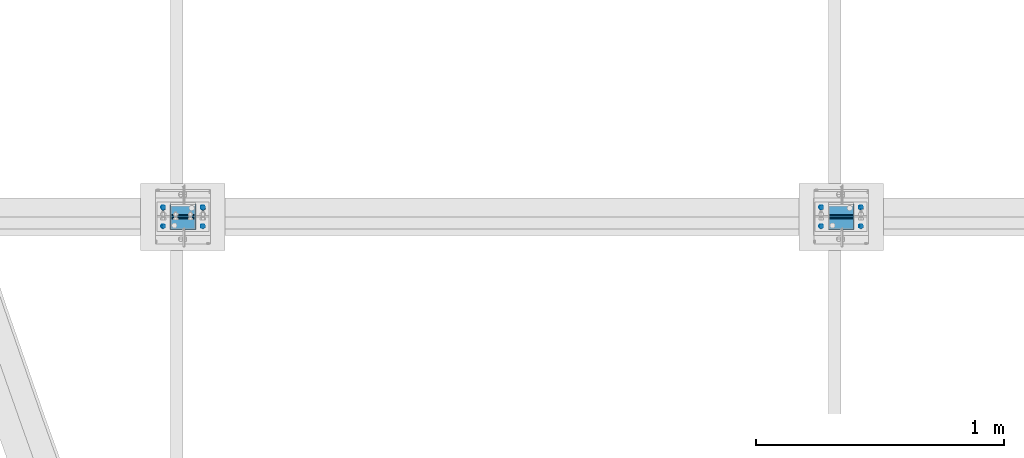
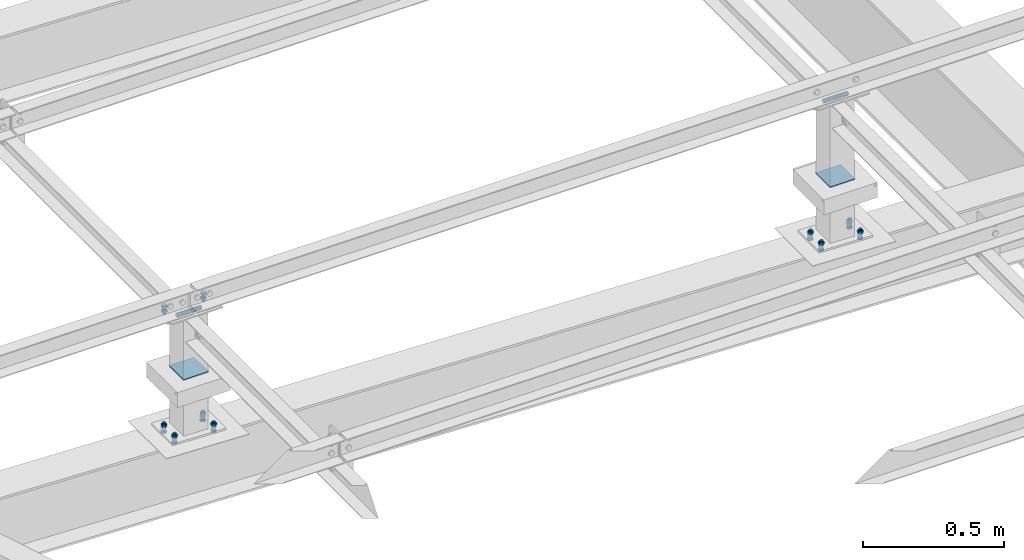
# One storey, part 56 of 3134: 9 mechanical fasteners, 5 elements without a shape of their own.
"""IFC2X3 building model written with IfcOpenShell, lengths in millimetres."""

from ifc_helpers import new_model, si_unit, frame, origin_with_axes, place, context, subcontext, project, spatial, faceted_brep, source, transform, mapped, material, type_object, element, aggregate, save


model = new_model("IFC2X3")

# Units and contexts
model_context = context("Model", 3, precision=1e-05, world=origin_with_axes())
body_context = subcontext(model_context, "Body", "Model", "MODEL_VIEW")
ifc_project = project(units=[si_unit("LENGTHUNIT", "METRE", prefix="MILLI"), si_unit("AREAUNIT", "SQUARE_METRE"), si_unit("VOLUMEUNIT", "CUBIC_METRE"), si_unit("MASSUNIT", "GRAM", prefix="KILO"), si_unit("TIMEUNIT", "SECOND"), si_unit("PLANEANGLEUNIT", "RADIAN"), si_unit("SOLIDANGLEUNIT", "STERADIAN"), si_unit("THERMODYNAMICTEMPERATUREUNIT", "DEGREE_CELSIUS"), si_unit("LUMINOUSINTENSITYUNIT", "LUMEN")], contexts=[model_context])

# Site, building, storey
site_placement = place(None, origin_with_axes())
site = spatial("IfcSite", under=ifc_project, at=site_placement, CompositionType="ELEMENT")
building_placement = place(site_placement, origin_with_axes())
building = spatial("IfcBuilding", under=site, at=building_placement, Name="Undefined", CompositionType="ELEMENT")
storey_placement = place(building_placement, origin_with_axes())
storey = spatial("IfcBuildingStorey", under=building, at=storey_placement, Name="Undefined", CompositionType="ELEMENT", Elevation=0.0)

# Assembly, mechanical fastener
assembly_1_placement = place(storey_placement, origin_with_axes())
assembly_1 = element("IfcElementAssembly", 1, at=assembly_1_placement, inside=storey, AssemblyPlace="NOTDEFINED", PredefinedType="RIGID_FRAME")
ifc_material_1 = material(Name="8.8")
mechanical_fastener_type = type_object("IfcMechanicalFastenerType", Name="Bolt assembly")
shared_shape_1 = source(origin_with_axes(), body_context, "Body", "Brep", [
    faceted_brep([(10.9696551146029, -14.0, 0.0), (5.48482755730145, -14.0, 9.5), (-5.48482755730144, -14.0, 9.5), (-10.9696551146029, -14.0, 1.34339530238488e-15), (-5.48482755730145, -14.0, -9.5), (5.48482755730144, -14.0, -9.50000000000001), (5.48482755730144, -6.0, -9.50000000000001), (-5.48482755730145, -6.0, -9.5), (-10.9696551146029, -6.0, 1.34339530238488e-15), (-5.48482755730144, -6.0, 9.5), (5.48482755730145, -6.0, 9.5), (10.9696551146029, -6.0, 0.0), (6.0, -6.0, 0.0), (5.19615242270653, -6.0, 3.00000000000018), (2.99999999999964, -6.0, 5.19615242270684), (-6.21801588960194e-13, -6.0, 6.0), (-3.00000000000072, -6.0, 5.19615242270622), (-5.19615242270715, -6.0, 2.9999999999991), (-6.0, -6.0, -1.24360317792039e-12), (-5.19615242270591, -6.0, -3.00000000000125), (-2.99999999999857, -6.0, -5.19615242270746), (1.85874342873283e-12, -6.0, -6.0), (3.00000000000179, -6.0, -5.1961524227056), (5.19615242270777, -6.0, -2.99999999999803), (5.19615242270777, 24.0, -2.99999999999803), (3.00000000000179, 24.0, -5.1961524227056), (1.85874342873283e-12, 24.0, -6.0), (-2.99999999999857, 24.0, -5.19615242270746), (-5.19615242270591, 24.0, -3.00000000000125), (-6.0, 24.0, -1.24360317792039e-12), (-5.19615242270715, 24.0, 2.9999999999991), (-3.00000000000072, 24.0, 5.19615242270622), (-6.21801588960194e-13, 24.0, 6.0), (2.99999999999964, 24.0, 5.19615242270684), (5.19615242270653, 24.0, 3.00000000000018), (6.0, 24.0, 0.0), (10.9696551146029, 6.00000000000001, 0.0), (5.48482755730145, 6.00000000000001, 9.5), (-5.48482755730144, 6.00000000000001, 9.5), (-10.9696551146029, 6.00000000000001, 1.34339530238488e-15), (-5.48482755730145, 6.00000000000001, -9.5), (5.48482755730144, 6.00000000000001, -9.50000000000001), (5.48482755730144, 16.0, -9.50000000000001), (-5.48482755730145, 16.0, -9.5), (-10.9696551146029, 16.0, 1.34339530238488e-15), (-5.48482755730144, 16.0, 9.5), (5.48482755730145, 16.0, 9.5), (10.9696551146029, 16.0, 0.0)], [[[0, 1, 2, 3, 4, 5]], [[6, 7, 8, 9, 10, 11]], [[0, 11, 10, 1]], [[1, 10, 9, 2]], [[2, 9, 8, 3]], [[3, 8, 7, 4]], [[4, 7, 6, 5]], [[5, 6, 11, 0]], [[12, 13, 14, 15, 16, 17, 18, 19, 20, 21, 22, 23]], [[24, 25, 26, 27, 28, 29, 30, 31, 32, 33, 34, 35]], [[12, 35, 34, 13]], [[13, 34, 33, 14]], [[14, 33, 32, 15]], [[15, 32, 31, 16]], [[16, 31, 30, 17]], [[17, 30, 29, 18]], [[18, 29, 28, 19]], [[19, 28, 27, 20]], [[20, 27, 26, 21]], [[21, 26, 25, 22]], [[22, 25, 24, 23]], [[23, 24, 35, 12]], [[36, 37, 38, 39, 40, 41]], [[42, 43, 44, 45, 46, 47]], [[36, 47, 46, 37]], [[37, 46, 45, 38]], [[38, 45, 44, 39]], [[39, 44, 43, 40]], [[40, 43, 42, 41]], [[41, 42, 47, 36]]]),
    faceted_brep([(7.0, -0.1, 0.0), (6.06217782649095, -0.1, 3.50000000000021), (3.49999999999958, -0.1, 6.06217782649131), (-7.25435187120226e-13, -0.1, 7.0), (-3.50000000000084, -0.1, 6.06217782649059), (-6.06217782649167, -0.1, 3.49999999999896), (-7.0, -0.1, -1.45087037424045e-12), (-6.06217782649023, -0.1, -3.50000000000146), (-3.49999999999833, -0.1, -6.06217782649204), (2.1685340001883e-12, -0.1, -7.0), (3.50000000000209, -0.1, -6.06217782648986), (6.0621778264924, -0.1, -3.4999999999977), (6.0621778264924, 6.00000000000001, -3.4999999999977), (3.50000000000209, 6.00000000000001, -6.06217782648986), (2.1685340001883e-12, 6.00000000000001, -7.0), (-3.49999999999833, 6.00000000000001, -6.06217782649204), (-6.06217782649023, 6.00000000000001, -3.50000000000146), (-7.0, 6.00000000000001, -1.45087037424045e-12), (-6.06217782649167, 6.00000000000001, 3.49999999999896), (-3.50000000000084, 6.00000000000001, 6.06217782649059), (-7.25435187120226e-13, 6.00000000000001, 7.0), (3.49999999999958, 6.00000000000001, 6.06217782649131), (6.06217782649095, 6.00000000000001, 3.50000000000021), (7.0, 6.00000000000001, 0.0), (7.0, -5.9, 0.0), (6.06217782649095, -5.9, 3.50000000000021), (3.49999999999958, -5.9, 6.06217782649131), (-7.25435187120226e-13, -5.9, 7.0), (-3.50000000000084, -5.9, 6.06217782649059), (-6.06217782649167, -5.9, 3.49999999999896), (-7.0, -5.9, -1.45087037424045e-12), (-6.06217782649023, -5.9, -3.50000000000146), (-3.49999999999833, -5.9, -6.06217782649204), (2.1685340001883e-12, -5.9, -7.0), (3.50000000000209, -5.9, -6.06217782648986), (6.0621778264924, -5.9, -3.4999999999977), (6.0621778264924, 0.0999999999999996, -3.4999999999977), (3.50000000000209, 0.0999999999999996, -6.06217782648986), (2.1685340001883e-12, 0.0999999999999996, -7.0), (-3.49999999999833, 0.0999999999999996, -6.06217782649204), (-6.06217782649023, 0.0999999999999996, -3.50000000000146), (-7.0, 0.0999999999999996, -1.45087037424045e-12), (-6.06217782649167, 0.0999999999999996, 3.49999999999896), (-3.50000000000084, 0.0999999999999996, 6.06217782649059), (-7.25435187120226e-13, 0.0999999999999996, 7.0), (3.49999999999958, 0.0999999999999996, 6.06217782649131), (6.06217782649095, 0.0999999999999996, 3.50000000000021), (7.0, 0.0999999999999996, 0.0)], [[[0, 1, 2, 3, 4, 5, 6, 7, 8, 9, 10, 11]], [[12, 13, 14, 15, 16, 17, 18, 19, 20, 21, 22, 23]], [[0, 23, 22, 1]], [[1, 22, 21, 2]], [[2, 21, 20, 3]], [[3, 20, 19, 4]], [[4, 19, 18, 5]], [[5, 18, 17, 6]], [[6, 17, 16, 7]], [[7, 16, 15, 8]], [[8, 15, 14, 9]], [[9, 14, 13, 10]], [[10, 13, 12, 11]], [[11, 12, 23, 0]], [[24, 25, 26, 27, 28, 29, 30, 31, 32, 33, 34, 35]], [[36, 37, 38, 39, 40, 41, 42, 43, 44, 45, 46, 47]], [[24, 47, 46, 25]], [[25, 46, 45, 26]], [[26, 45, 44, 27]], [[27, 44, 43, 28]], [[28, 43, 42, 29]], [[29, 42, 41, 30]], [[30, 41, 40, 31]], [[31, 40, 39, 32]], [[32, 39, 38, 33]], [[33, 38, 37, 34]], [[34, 37, 36, 35]], [[35, 36, 47, 24]]]),
])
mechanical_fastener_1_placement = place(assembly_1_placement, frame((5691.67, 19485.0, 4365.0), z_axis=(1.0, 0.0, 0.0), x_axis=(0.0, -1.0, 0.0)))
mechanical_fastener_1 = element("IfcMechanicalFastener", 2, at=mechanical_fastener_1_placement, type_object=mechanical_fastener_type, material=ifc_material_1, Name="Bolt assembly", NominalDiameter=12.0, NominalLength=30.0, context=body_context, shape_type="MappedRepresentation", body=[
    mapped(shared_shape_1, transform((0.0, -5.32963895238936e-10, -79.9999999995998))),
    mapped(shared_shape_1, transform((0.0, 5.3114490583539e-10, 79.9999999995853))),
])
aggregate(assembly_1, [mechanical_fastener_1])

assembly_2_placement = place(storey_placement, origin_with_axes())
assembly_2 = element("IfcElementAssembly", 3, at=assembly_2_placement, inside=storey, AssemblyPlace="NOTDEFINED", PredefinedType="RIGID_FRAME")
shared_shape_2 = source(origin_with_axes(), body_context, "Body", "Brep", [
    faceted_brep([(10.9696551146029, -4.18280906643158, 0.0), (5.48482755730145, -4.18280906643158, 9.5), (-5.48482755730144, -4.18280906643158, 9.5), (-10.9696551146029, -4.18280906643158, 1.34339530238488e-15), (-5.48482755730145, -4.18280906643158, -9.5), (5.48482755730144, -4.18280906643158, -9.50000000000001), (5.48482755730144, 3.81719093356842, -9.50000000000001), (-5.48482755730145, 3.81719093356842, -9.5), (-10.9696551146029, 3.81719093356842, 1.34339530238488e-15), (-5.48482755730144, 3.81719093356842, 9.5), (5.48482755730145, 3.81719093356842, 9.5), (10.9696551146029, 3.81719093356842, 0.0), (6.0, 3.81719093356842, 0.0), (5.19615242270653, 3.81719093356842, 3.00000000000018), (2.99999999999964, 3.81719093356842, 5.19615242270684), (-6.21801588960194e-13, 3.81719093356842, 6.0), (-3.00000000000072, 3.81719093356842, 5.19615242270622), (-5.19615242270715, 3.81719093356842, 2.9999999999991), (-6.0, 3.81719093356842, -1.24360317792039e-12), (-5.19615242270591, 3.81719093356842, -3.00000000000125), (-2.99999999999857, 3.81719093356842, -5.19615242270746), (1.85874342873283e-12, 3.81719093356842, -6.0), (3.00000000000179, 3.81719093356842, -5.1961524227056), (5.19615242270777, 3.81719093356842, -2.99999999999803), (5.19615242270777, 38.8171909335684, -2.99999999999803), (3.00000000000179, 38.8171909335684, -5.1961524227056), (1.85874342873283e-12, 38.8171909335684, -6.0), (-2.99999999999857, 38.8171909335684, -5.19615242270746), (-5.19615242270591, 38.8171909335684, -3.00000000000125), (-6.0, 38.8171909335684, -1.24360317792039e-12), (-5.19615242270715, 38.8171909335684, 2.9999999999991), (-3.00000000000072, 38.8171909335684, 5.19615242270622), (-6.21801588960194e-13, 38.8171909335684, 6.0), (2.99999999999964, 38.8171909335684, 5.19615242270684), (5.19615242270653, 38.8171909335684, 3.00000000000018), (6.0, 38.8171909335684, 0.0), (10.9696551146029, 23.0139082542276, 0.0), (5.48482755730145, 23.0139082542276, 9.5), (-5.48482755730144, 23.0139082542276, 9.5), (-10.9696551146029, 23.0139082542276, 1.34339530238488e-15), (-5.48482755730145, 23.0139082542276, -9.5), (5.48482755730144, 23.0139082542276, -9.50000000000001), (5.48482755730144, 33.0139082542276, -9.50000000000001), (-5.48482755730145, 33.0139082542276, -9.5), (-10.9696551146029, 33.0139082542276, 1.34339530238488e-15), (-5.48482755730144, 33.0139082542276, 9.5), (5.48482755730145, 33.0139082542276, 9.5), (10.9696551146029, 33.0139082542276, 0.0)], [[[0, 1, 2, 3, 4, 5]], [[6, 7, 8, 9, 10, 11]], [[0, 11, 10, 1]], [[1, 10, 9, 2]], [[2, 9, 8, 3]], [[3, 8, 7, 4]], [[4, 7, 6, 5]], [[5, 6, 11, 0]], [[12, 13, 14, 15, 16, 17, 18, 19, 20, 21, 22, 23]], [[24, 25, 26, 27, 28, 29, 30, 31, 32, 33, 34, 35]], [[12, 35, 34, 13]], [[13, 34, 33, 14]], [[14, 33, 32, 15]], [[15, 32, 31, 16]], [[16, 31, 30, 17]], [[17, 30, 29, 18]], [[18, 29, 28, 19]], [[19, 28, 27, 20]], [[20, 27, 26, 21]], [[21, 26, 25, 22]], [[22, 25, 24, 23]], [[23, 24, 35, 12]], [[36, 37, 38, 39, 40, 41]], [[42, 43, 44, 45, 46, 47]], [[36, 47, 46, 37]], [[37, 46, 45, 38]], [[38, 45, 44, 39]], [[39, 44, 43, 40]], [[40, 43, 42, 41]], [[41, 42, 47, 36]]]),
    faceted_brep([(7.0, 3.91719093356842, 0.0), (6.06217782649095, 3.91719093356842, 3.50000000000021), (3.49999999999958, 3.91719093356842, 6.06217782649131), (-7.25435187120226e-13, 3.91719093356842, 7.0), (-3.50000000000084, 3.91719093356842, 6.06217782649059), (-6.06217782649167, 3.91719093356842, 3.49999999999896), (-7.0, 3.91719093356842, -1.45087037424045e-12), (-6.06217782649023, 3.91719093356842, -3.50000000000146), (-3.49999999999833, 3.91719093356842, -6.06217782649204), (2.1685340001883e-12, 3.91719093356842, -7.0), (3.50000000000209, 3.91719093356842, -6.06217782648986), (6.0621778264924, 3.91719093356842, -3.4999999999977), (6.0621778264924, 13.1171907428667, -3.4999999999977), (3.50000000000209, 13.1171907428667, -6.06217782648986), (2.1685340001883e-12, 13.1171907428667, -7.0), (-3.49999999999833, 13.1171907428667, -6.06217782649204), (-6.06217782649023, 13.1171907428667, -3.50000000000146), (-7.0, 13.1171907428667, -1.45087037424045e-12), (-6.06217782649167, 13.1171907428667, 3.49999999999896), (-3.50000000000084, 13.1171907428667, 6.06217782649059), (-7.25435187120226e-13, 13.1171907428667, 7.0), (3.49999999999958, 13.1171907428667, 6.06217782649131), (6.06217782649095, 13.1171907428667, 3.50000000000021), (7.0, 13.1171907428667, 0.0), (7.0, 14.9139082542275, 0.0), (6.06217782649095, 14.9139082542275, 3.50000000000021), (3.49999999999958, 14.9139082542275, 6.06217782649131), (-7.25435187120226e-13, 14.9139082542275, 7.0), (-3.50000000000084, 14.9139082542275, 6.06217782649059), (-6.06217782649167, 14.9139082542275, 3.49999999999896), (-7.0, 14.9139082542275, -1.45087037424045e-12), (-6.06217782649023, 14.9139082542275, -3.50000000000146), (-3.49999999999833, 14.9139082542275, -6.06217782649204), (2.1685340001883e-12, 14.9139082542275, -7.0), (3.50000000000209, 14.9139082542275, -6.06217782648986), (6.0621778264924, 14.9139082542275, -3.4999999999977), (6.0621778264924, 23.0139082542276, -3.4999999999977), (3.50000000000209, 23.0139082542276, -6.06217782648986), (2.1685340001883e-12, 23.0139082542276, -7.0), (-3.49999999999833, 23.0139082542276, -6.06217782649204), (-6.06217782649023, 23.0139082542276, -3.50000000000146), (-7.0, 23.0139082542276, -1.45087037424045e-12), (-6.06217782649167, 23.0139082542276, 3.49999999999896), (-3.50000000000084, 23.0139082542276, 6.06217782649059), (-7.25435187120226e-13, 23.0139082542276, 7.0), (3.49999999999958, 23.0139082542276, 6.06217782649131), (6.06217782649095, 23.0139082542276, 3.50000000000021), (7.0, 23.0139082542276, 0.0)], [[[0, 1, 2, 3, 4, 5, 6, 7, 8, 9, 10, 11]], [[12, 13, 14, 15, 16, 17, 18, 19, 20, 21, 22, 23]], [[0, 23, 22, 1]], [[1, 22, 21, 2]], [[2, 21, 20, 3]], [[3, 20, 19, 4]], [[4, 19, 18, 5]], [[5, 18, 17, 6]], [[6, 17, 16, 7]], [[7, 16, 15, 8]], [[8, 15, 14, 9]], [[9, 14, 13, 10]], [[10, 13, 12, 11]], [[11, 12, 23, 0]], [[24, 25, 26, 27, 28, 29, 30, 31, 32, 33, 34, 35]], [[36, 37, 38, 39, 40, 41, 42, 43, 44, 45, 46, 47]], [[24, 47, 46, 25]], [[25, 46, 45, 26]], [[26, 45, 44, 27]], [[27, 44, 43, 28]], [[28, 43, 42, 29]], [[29, 42, 41, 30]], [[30, 41, 40, 31]], [[31, 40, 39, 32]], [[32, 39, 38, 33]], [[33, 38, 37, 34]], [[34, 37, 36, 35]], [[35, 36, 47, 24]]]),
])
mechanical_fastener_2_placement = place(assembly_2_placement, frame((5690.86474073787, 19487.9999999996, 3827.79222028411), z_axis=(-0.999387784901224, 0.0, 0.0349865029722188), x_axis=(0.0, -1.0, 0.0)))
mechanical_fastener_2 = element("IfcMechanicalFastener", 4, at=mechanical_fastener_2_placement, type_object=mechanical_fastener_type, material=ifc_material_1, Name="Bolt assembly", NominalDiameter=12.0, NominalLength=35.0, context=body_context, shape_type="MappedRepresentation", body=[
    mapped(shared_shape_2, transform((0.0, -5.32963895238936e-10, -79.9999999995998))),
    mapped(shared_shape_2, transform((76.0, -5.32963895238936e-10, -79.9999999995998))),
    mapped(shared_shape_2, transform((0.0, 5.3114490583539e-10, 79.9999999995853))),
    mapped(shared_shape_2, transform((76.0, 5.3114490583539e-10, 79.9999999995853))),
])

assembly_3_placement = place(storey_placement, origin_with_axes())
assembly_3 = element("IfcElementAssembly", 5, at=assembly_3_placement, inside=storey, AssemblyPlace="NOTDEFINED", PredefinedType="RIGID_FRAME")
shared_shape_3 = source(origin_with_axes(), body_context, "Body", "Brep", [
    faceted_brep([(10.9696551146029, -4.18346828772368, 0.0), (5.48482755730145, -4.18346828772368, 9.5), (-5.48482755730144, -4.18346828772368, 9.5), (-10.9696551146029, -4.18346828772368, 1.34339530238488e-15), (-5.48482755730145, -4.18346828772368, -9.5), (5.48482755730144, -4.18346828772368, -9.50000000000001), (5.48482755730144, 3.81653171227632, -9.50000000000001), (-5.48482755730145, 3.81653171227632, -9.5), (-10.9696551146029, 3.81653171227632, 1.34339530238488e-15), (-5.48482755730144, 3.81653171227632, 9.5), (5.48482755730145, 3.81653171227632, 9.5), (10.9696551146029, 3.81653171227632, 0.0), (6.0, 3.81653171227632, 0.0), (5.19615242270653, 3.81653171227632, 3.00000000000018), (2.99999999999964, 3.81653171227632, 5.19615242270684), (-6.21801588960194e-13, 3.81653171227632, 6.0), (-3.00000000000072, 3.81653171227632, 5.19615242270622), (-5.19615242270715, 3.81653171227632, 2.9999999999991), (-6.0, 3.81653171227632, -1.24360317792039e-12), (-5.19615242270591, 3.81653171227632, -3.00000000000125), (-2.99999999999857, 3.81653171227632, -5.19615242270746), (1.85874342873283e-12, 3.81653171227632, -6.0), (3.00000000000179, 3.81653171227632, -5.1961524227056), (5.19615242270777, 3.81653171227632, -2.99999999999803), (5.19615242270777, 38.8165317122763, -2.99999999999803), (3.00000000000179, 38.8165317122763, -5.1961524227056), (1.85874342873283e-12, 38.8165317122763, -6.0), (-2.99999999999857, 38.8165317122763, -5.19615242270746), (-5.19615242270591, 38.8165317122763, -3.00000000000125), (-6.0, 38.8165317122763, -1.24360317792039e-12), (-5.19615242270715, 38.8165317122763, 2.9999999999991), (-3.00000000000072, 38.8165317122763, 5.19615242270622), (-6.21801588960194e-13, 38.8165317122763, 6.0), (2.99999999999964, 38.8165317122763, 5.19615242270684), (5.19615242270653, 38.8165317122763, 3.00000000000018), (6.0, 38.8165317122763, 0.0), (10.9696551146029, 23.0139082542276, 0.0), (5.48482755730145, 23.0139082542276, 9.5), (-5.48482755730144, 23.0139082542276, 9.5), (-10.9696551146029, 23.0139082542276, 1.34339530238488e-15), (-5.48482755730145, 23.0139082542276, -9.5), (5.48482755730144, 23.0139082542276, -9.50000000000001), (5.48482755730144, 33.0139082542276, -9.50000000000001), (-5.48482755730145, 33.0139082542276, -9.5), (-10.9696551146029, 33.0139082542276, 1.34339530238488e-15), (-5.48482755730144, 33.0139082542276, 9.5), (5.48482755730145, 33.0139082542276, 9.5), (10.9696551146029, 33.0139082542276, 0.0)], [[[0, 1, 2, 3, 4, 5]], [[6, 7, 8, 9, 10, 11]], [[0, 11, 10, 1]], [[1, 10, 9, 2]], [[2, 9, 8, 3]], [[3, 8, 7, 4]], [[4, 7, 6, 5]], [[5, 6, 11, 0]], [[12, 13, 14, 15, 16, 17, 18, 19, 20, 21, 22, 23]], [[24, 25, 26, 27, 28, 29, 30, 31, 32, 33, 34, 35]], [[12, 35, 34, 13]], [[13, 34, 33, 14]], [[14, 33, 32, 15]], [[15, 32, 31, 16]], [[16, 31, 30, 17]], [[17, 30, 29, 18]], [[18, 29, 28, 19]], [[19, 28, 27, 20]], [[20, 27, 26, 21]], [[21, 26, 25, 22]], [[22, 25, 24, 23]], [[23, 24, 35, 12]], [[36, 37, 38, 39, 40, 41]], [[42, 43, 44, 45, 46, 47]], [[36, 47, 46, 37]], [[37, 46, 45, 38]], [[38, 45, 44, 39]], [[39, 44, 43, 40]], [[40, 43, 42, 41]], [[41, 42, 47, 36]]]),
    faceted_brep([(7.0, 3.91653171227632, 0.0), (6.06217782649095, 3.91653171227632, 3.50000000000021), (3.49999999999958, 3.91653171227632, 6.06217782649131), (-7.25435187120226e-13, 3.91653171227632, 7.0), (-3.50000000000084, 3.91653171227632, 6.06217782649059), (-6.06217782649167, 3.91653171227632, 3.49999999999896), (-7.0, 3.91653171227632, -1.45087037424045e-12), (-6.06217782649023, 3.91653171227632, -3.50000000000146), (-3.49999999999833, 3.91653171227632, -6.06217782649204), (2.1685340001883e-12, 3.91653171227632, -7.0), (3.50000000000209, 3.91653171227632, -6.06217782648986), (6.0621778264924, 3.91653171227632, -3.4999999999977), (6.0621778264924, 13.1165315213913, -3.4999999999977), (3.50000000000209, 13.1165315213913, -6.06217782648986), (2.1685340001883e-12, 13.1165315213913, -7.0), (-3.49999999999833, 13.1165315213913, -6.06217782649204), (-6.06217782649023, 13.1165315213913, -3.50000000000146), (-7.0, 13.1165315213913, -1.45087037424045e-12), (-6.06217782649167, 13.1165315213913, 3.49999999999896), (-3.50000000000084, 13.1165315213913, 6.06217782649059), (-7.25435187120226e-13, 13.1165315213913, 7.0), (3.49999999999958, 13.1165315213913, 6.06217782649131), (6.06217782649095, 13.1165315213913, 3.50000000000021), (7.0, 13.1165315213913, 0.0), (7.0, 14.9139082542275, 0.0), (6.06217782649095, 14.9139082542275, 3.50000000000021), (3.49999999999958, 14.9139082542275, 6.06217782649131), (-7.25435187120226e-13, 14.9139082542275, 7.0), (-3.50000000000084, 14.9139082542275, 6.06217782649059), (-6.06217782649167, 14.9139082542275, 3.49999999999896), (-7.0, 14.9139082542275, -1.45087037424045e-12), (-6.06217782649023, 14.9139082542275, -3.50000000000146), (-3.49999999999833, 14.9139082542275, -6.06217782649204), (2.1685340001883e-12, 14.9139082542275, -7.0), (3.50000000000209, 14.9139082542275, -6.06217782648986), (6.0621778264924, 14.9139082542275, -3.4999999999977), (6.0621778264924, 23.0139082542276, -3.4999999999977), (3.50000000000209, 23.0139082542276, -6.06217782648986), (2.1685340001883e-12, 23.0139082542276, -7.0), (-3.49999999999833, 23.0139082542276, -6.06217782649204), (-6.06217782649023, 23.0139082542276, -3.50000000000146), (-7.0, 23.0139082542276, -1.45087037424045e-12), (-6.06217782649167, 23.0139082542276, 3.49999999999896), (-3.50000000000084, 23.0139082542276, 6.06217782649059), (-7.25435187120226e-13, 23.0139082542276, 7.0), (3.49999999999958, 23.0139082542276, 6.06217782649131), (6.06217782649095, 23.0139082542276, 3.50000000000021), (7.0, 23.0139082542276, 0.0)], [[[0, 1, 2, 3, 4, 5, 6, 7, 8, 9, 10, 11]], [[12, 13, 14, 15, 16, 17, 18, 19, 20, 21, 22, 23]], [[0, 23, 22, 1]], [[1, 22, 21, 2]], [[2, 21, 20, 3]], [[3, 20, 19, 4]], [[4, 19, 18, 5]], [[5, 18, 17, 6]], [[6, 17, 16, 7]], [[7, 16, 15, 8]], [[8, 15, 14, 9]], [[9, 14, 13, 10]], [[10, 13, 12, 11]], [[11, 12, 23, 0]], [[24, 25, 26, 27, 28, 29, 30, 31, 32, 33, 34, 35]], [[36, 37, 38, 39, 40, 41, 42, 43, 44, 45, 46, 47]], [[24, 47, 46, 25]], [[25, 46, 45, 26]], [[26, 45, 44, 27]], [[27, 44, 43, 28]], [[28, 43, 42, 29]], [[29, 42, 41, 30]], [[30, 41, 40, 31]], [[31, 40, 39, 32]], [[32, 39, 38, 33]], [[33, 38, 37, 34]], [[34, 37, 36, 35]], [[35, 36, 47, 24]]]),
])
mechanical_fastener_3_placement = place(assembly_3_placement, frame((8339.1931765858, 19487.9999999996, 3735.10000668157), z_axis=(-0.999387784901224, 0.0, 0.0349865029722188), x_axis=(0.0, -1.0, 0.0)))
mechanical_fastener_3 = element("IfcMechanicalFastener", 6, at=mechanical_fastener_3_placement, type_object=mechanical_fastener_type, material=ifc_material_1, Name="Bolt assembly", NominalDiameter=12.0, NominalLength=35.0, context=body_context, shape_type="MappedRepresentation", body=[
    mapped(shared_shape_3, transform((0.0, -5.32963895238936e-10, -79.9999999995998))),
    mapped(shared_shape_3, transform((76.0, -5.32963895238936e-10, -79.9999999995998))),
    mapped(shared_shape_3, transform((0.0, 5.3114490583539e-10, 79.9999999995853))),
    mapped(shared_shape_3, transform((76.0, 5.3114490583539e-10, 79.9999999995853))),
])

assembly_4_placement = place(storey_placement, origin_with_axes())
assembly_4 = element("IfcElementAssembly", 7, at=assembly_4_placement, inside=storey, AssemblyPlace="NOTDEFINED", PredefinedType="RIGID_FRAME")
shared_shape_4 = source(origin_with_axes(), body_context, "Body", "Brep", [
    faceted_brep([(7.0, 13.0000253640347, 0.0), (6.06217782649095, 13.0000253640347, 3.50000000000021), (3.49999999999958, 13.0000253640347, 6.06217782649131), (-7.25435187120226e-13, 13.0000253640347, 7.0), (-3.50000000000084, 13.0000253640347, 6.06217782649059), (-6.06217782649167, 13.0000253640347, 3.49999999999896), (-7.0, 13.0000253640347, -1.45087037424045e-12), (-6.06217782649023, 13.0000253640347, -3.50000000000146), (-3.49999999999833, 13.0000253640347, -6.06217782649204), (2.1685340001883e-12, 13.0000253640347, -7.0), (3.50000000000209, 13.0000253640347, -6.06217782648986), (6.0621778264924, 13.0000253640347, -3.4999999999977), (6.0621778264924, 15.0999999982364, -3.4999999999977), (3.50000000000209, 15.0999999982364, -6.06217782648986), (2.1685340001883e-12, 15.0999999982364, -7.0), (-3.49999999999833, 15.0999999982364, -6.06217782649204), (-6.06217782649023, 15.0999999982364, -3.50000000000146), (-7.0, 15.0999999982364, -1.45087037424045e-12), (-6.06217782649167, 15.0999999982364, 3.49999999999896), (-3.50000000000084, 15.0999999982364, 6.06217782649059), (-7.25435187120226e-13, 15.0999999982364, 7.0), (3.49999999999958, 15.0999999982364, 6.06217782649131), (6.06217782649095, 15.0999999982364, 3.50000000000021), (7.0, 15.0999999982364, 0.0)], [[[0, 1, 2, 3, 4, 5, 6, 7, 8, 9, 10, 11]], [[12, 13, 14, 15, 16, 17, 18, 19, 20, 21, 22, 23]], [[0, 23, 22, 1]], [[1, 22, 21, 2]], [[2, 21, 20, 3]], [[3, 20, 19, 4]], [[4, 19, 18, 5]], [[5, 18, 17, 6]], [[6, 17, 16, 7]], [[7, 16, 15, 8]], [[8, 15, 14, 9]], [[9, 14, 13, 10]], [[10, 13, 12, 11]], [[11, 12, 23, 0]]]),
])
mechanical_fastener_4_placement = place(assembly_4_placement, frame((5690.86474073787, 19487.9999999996, 3827.79222028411), z_axis=(-0.999387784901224, 0.0, 0.0349865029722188), x_axis=(0.0, -1.0, 0.0)))
mechanical_fastener_4 = element("IfcMechanicalFastener", 8, at=mechanical_fastener_4_placement, type_object=mechanical_fastener_type, material=ifc_material_1, Name="Bolt assembly", NominalDiameter=12.0, NominalLength=2.0, context=body_context, shape_type="MappedRepresentation", body=[
    mapped(shared_shape_4, transform((0.0, -5.32963895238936e-10, -79.9999999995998))),
    mapped(shared_shape_4, transform((76.0, -5.32963895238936e-10, -79.9999999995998))),
    mapped(shared_shape_4, transform((0.0, 5.3114490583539e-10, 79.9999999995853))),
    mapped(shared_shape_4, transform((76.0, 5.3114490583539e-10, 79.9999999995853))),
])
aggregate(assembly_4, [mechanical_fastener_4])

assembly_5_placement = place(storey_placement, origin_with_axes())
assembly_5 = element("IfcElementAssembly", 9, at=assembly_5_placement, inside=storey, AssemblyPlace="NOTDEFINED", PredefinedType="RIGID_FRAME")
mechanical_fastener_5_placement = place(assembly_5_placement, frame((8339.1931765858, 19487.9999999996, 3735.10000668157), z_axis=(-0.999387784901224, 0.0, 0.0349865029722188), x_axis=(0.0, -1.0, 0.0)))
mechanical_fastener_5 = element("IfcMechanicalFastener", 10, at=mechanical_fastener_5_placement, type_object=mechanical_fastener_type, material=ifc_material_1, Name="Bolt assembly", NominalDiameter=12.0, NominalLength=2.0, context=body_context, shape_type="MappedRepresentation", body=[
    mapped(shared_shape_4, transform((0.0, -5.32963895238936e-10, -79.9999999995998))),
    mapped(shared_shape_4, transform((76.0, -5.32963895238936e-10, -79.9999999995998))),
    mapped(shared_shape_4, transform((0.0, 5.3114490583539e-10, 79.9999999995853))),
    mapped(shared_shape_4, transform((76.0, 5.3114490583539e-10, 79.9999999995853))),
])
aggregate(assembly_5, [mechanical_fastener_5])

# Mechanical fastener
shared_shape_5 = source(origin_with_axes(), body_context, "Body", "Brep", [
    faceted_brep([(9.0, -50.0, 0.0), (7.79422863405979, -50.0, 4.50000000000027), (4.49999999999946, -50.0, 7.79422863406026), (-9.3270238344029e-13, -50.0, 9.0), (-4.50000000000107, -50.0, 7.79422863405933), (-7.79422863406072, -50.0, 4.49999999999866), (-9.0, -50.0, -1.86540476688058e-12), (-7.79422863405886, -50.0, -4.50000000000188), (-4.49999999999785, -50.0, -7.79422863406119), (2.78811514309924e-12, -50.0, -9.0), (4.50000000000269, -50.0, -7.7942286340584), (7.79422863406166, -50.0, -4.49999999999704), (7.79422863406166, 50.1, -4.49999999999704), (4.50000000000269, 50.1, -7.7942286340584), (2.78811514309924e-12, 50.1, -9.0), (-4.49999999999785, 50.1, -7.79422863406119), (-7.79422863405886, 50.1, -4.50000000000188), (-9.0, 50.1, -1.86540476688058e-12), (-7.79422863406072, 50.1, 4.49999999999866), (-4.50000000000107, 50.1, 7.79422863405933), (-9.3270238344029e-13, 50.1, 9.0), (4.49999999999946, 50.1, 7.79422863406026), (7.79422863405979, 50.1, 4.50000000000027), (9.0, 50.1, 0.0)], [[[0, 1, 2, 3, 4, 5, 6, 7, 8, 9, 10, 11]], [[12, 13, 14, 15, 16, 17, 18, 19, 20, 21, 22, 23]], [[0, 23, 22, 1]], [[1, 22, 21, 2]], [[2, 21, 20, 3]], [[3, 20, 19, 4]], [[4, 19, 18, 5]], [[5, 18, 17, 6]], [[6, 17, 16, 7]], [[7, 16, 15, 8]], [[8, 15, 14, 9]], [[9, 14, 13, 10]], [[10, 13, 12, 11]], [[11, 12, 23, 0]]]),
])
mechanical_fastener_6_placement = place(assembly_2_placement, frame((5691.67, 19450.0, 4345.0), z_axis=(0.0, 1.0, 0.0), x_axis=(0.0, 0.0, 1.0)))
mechanical_fastener_6 = element("IfcMechanicalFastener", 11, at=mechanical_fastener_6_placement, type_object=mechanical_fastener_type, material=ifc_material_1, Name="Bolt assembly", NominalDiameter=16.0, NominalLength=100.0, context=body_context, shape_type="MappedRepresentation", body=[
    mapped(shared_shape_5, transform((0.0, 0.0, 0.0))),
])

mechanical_fastener_7_placement = place(assembly_3_placement, frame((8340.0, 19450.0, 4345.0), z_axis=(0.0, 1.0, 0.0), x_axis=(0.0, 0.0, 1.0)))
mechanical_fastener_7 = element("IfcMechanicalFastener", 12, at=mechanical_fastener_7_placement, type_object=mechanical_fastener_type, material=ifc_material_1, Name="Bolt assembly", NominalDiameter=16.0, NominalLength=100.0, context=body_context, shape_type="MappedRepresentation", body=[
    mapped(shared_shape_5, transform((0.0, 0.0, 0.0))),
])

ifc_material_2 = material(Name="6.8")
shared_shape_6 = source(origin_with_axes(), body_context, "Body", "Brep", [
    faceted_brep([(51.5, 1.36424205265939e-12, 50.0), (51.3858192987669, 1.36424205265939e-12, 50.5740251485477), (51.0606601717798, 1.36424205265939e-12, 51.0606601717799), (50.5740251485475, 1.36424205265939e-12, 51.385819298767), (-50.0000000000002, 1.36424205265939e-12, 51.5), (-50.7500000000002, 1.36424205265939e-12, 51.2990381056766), (-51.2990381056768, 1.36424205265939e-12, 50.7499999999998), (-51.5, 1.36424205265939e-12, 49.9999999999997), (-51.5, 1.36424205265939e-12, -50.0000000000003), (-51.2990381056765, 1.36424205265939e-12, -50.7500000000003), (-50.7499999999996, 1.36424205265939e-12, -51.2990381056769), (-49.9999999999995, 1.36424205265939e-12, -51.5), (50.0000000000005, 1.36424205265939e-12, -51.5), (50.7500000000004, 1.36424205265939e-12, -51.2990381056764), (51.2990381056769, 1.36424205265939e-12, -50.7499999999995), (51.5, 1.36424205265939e-12, -49.9999999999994), (51.5, 5.10000000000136, -49.9999999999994), (51.2990381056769, 5.10000000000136, -50.7499999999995), (50.7500000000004, 5.10000000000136, -51.2990381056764), (50.0000000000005, 5.10000000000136, -51.5), (-49.9999999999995, 5.10000000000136, -51.5), (-50.7499999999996, 5.10000000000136, -51.2990381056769), (-51.2990381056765, 5.10000000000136, -50.7500000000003), (-51.5, 5.10000000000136, -50.0000000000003), (-51.5, 5.10000000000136, 49.9999999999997), (-51.2990381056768, 5.10000000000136, 50.7499999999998), (-50.7500000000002, 5.10000000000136, 51.2990381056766), (-50.0000000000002, 5.10000000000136, 51.5), (50.5740251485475, 5.10000000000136, 51.385819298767), (51.0606601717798, 5.10000000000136, 51.0606601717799), (51.3858192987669, 5.10000000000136, 50.5740251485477), (51.5, 5.10000000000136, 50.0)], [[[0, 1, 2, 3, 4, 5, 6, 7, 8, 9, 10, 11, 12, 13, 14, 15]], [[16, 17, 18, 19, 20, 21, 22, 23, 24, 25, 26, 27, 28, 29, 30, 31]], [[0, 31, 30, 1]], [[1, 30, 29, 2]], [[2, 29, 28, 3]], [[3, 28, 27, 4]], [[4, 27, 26, 5]], [[5, 26, 25, 6]], [[6, 25, 24, 7]], [[7, 24, 23, 8]], [[8, 23, 22, 9]], [[9, 22, 21, 10]], [[10, 21, 20, 11]], [[11, 20, 19, 12]], [[12, 19, 18, 13]], [[13, 18, 17, 14]], [[14, 17, 16, 15]], [[15, 16, 31, 0]]]),
])
mechanical_fastener_8_placement = place(assembly_2_placement, frame((5691.66156415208, 19450.0, 4097.5922136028), z_axis=(0.0, -1.0, 0.0), x_axis=(-1.0, 0.0, 0.0)))
mechanical_fastener_8 = element("IfcMechanicalFastener", 13, at=mechanical_fastener_8_placement, type_object=mechanical_fastener_type, material=ifc_material_2, Name="Bolt assembly", NominalDiameter=10.0, NominalLength=5.0, context=body_context, shape_type="MappedRepresentation", body=[
    mapped(shared_shape_6, transform((0.0, 0.0, 0.0))),
])

aggregate(assembly_2, [mechanical_fastener_2, mechanical_fastener_6, mechanical_fastener_8])

mechanical_fastener_9_placement = place(assembly_3_placement, frame((8340.0, 19450.0, 4004.89), z_axis=(0.0, -1.0, 0.0), x_axis=(-1.0, 0.0, 0.0)))
mechanical_fastener_9 = element("IfcMechanicalFastener", 14, at=mechanical_fastener_9_placement, type_object=mechanical_fastener_type, material=ifc_material_2, Name="Bolt assembly", NominalDiameter=10.0, NominalLength=5.0, context=body_context, shape_type="MappedRepresentation", body=[
    mapped(shared_shape_6, transform((0.0, 0.0, 0.0))),
])

aggregate(assembly_3, [mechanical_fastener_3, mechanical_fastener_9, mechanical_fastener_7])

save(model, "model.ifc")
